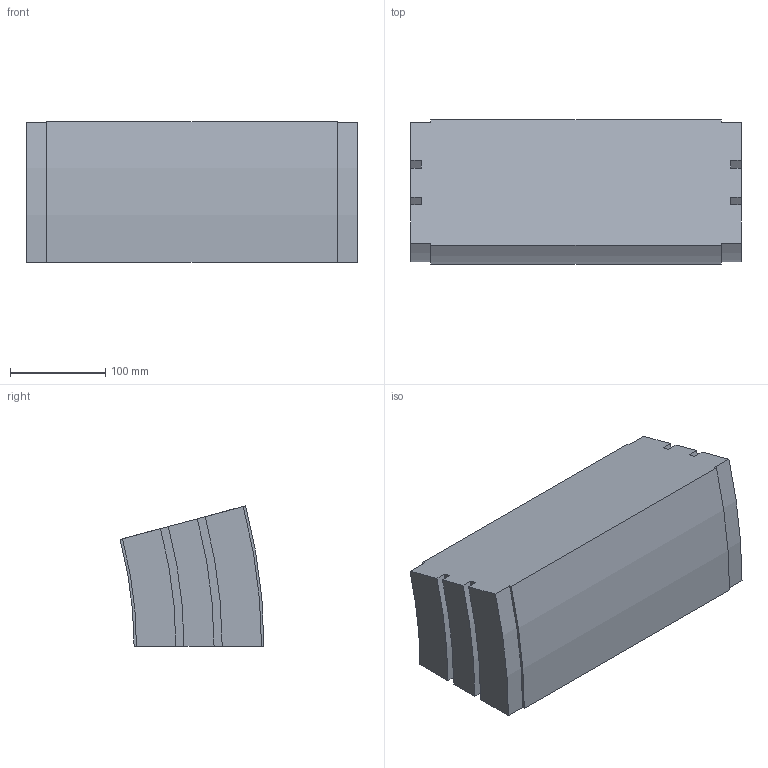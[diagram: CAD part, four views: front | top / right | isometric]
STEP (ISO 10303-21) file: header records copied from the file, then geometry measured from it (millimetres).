
FILE_DESCRIPTION (( 'STEP AP214' ), '1' );
FILE_NAME ('02.150V15.350.N FS-350-MTC-150 Bocht verticaal 15°.STEP', '2013-03-21T10:49:53', ( 'Gebruiker' ), ( '' ), 'SwSTEP 2.0', 'SolidWorks 2012', '' );
FILE_SCHEMA (( 'AUTOMOTIVE_DESIGN' ));
Length unit declared in the file: millimetre
Products named in the file (1): 02.150V15.350.N FS-350-MTC-150 Bocht verticaal 15°
Bounding box: 346 x 150.72 x 147.01 mm (x, y, z)
Volume: 6083170.6 mm3; surface area: 230650.5 mm2
Topology: 1 solids, 1 shells, 30 faces, 84 edges, 56 vertices
Faces by surface type: plane 16, cylinder 14
Entity records: 1010 total; most frequent: DIRECTION 174, CARTESIAN_POINT 171, ORIENTED_EDGE 168, EDGE_CURVE 84, AXIS2_PLACEMENT_3D 59, LINE 56, VECTOR 56, VERTEX_POINT 56
